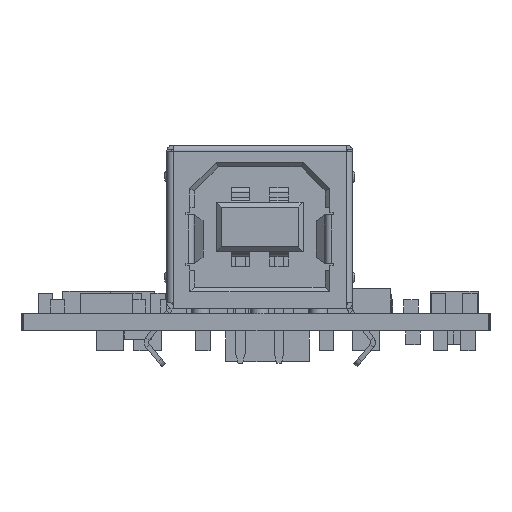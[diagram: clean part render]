
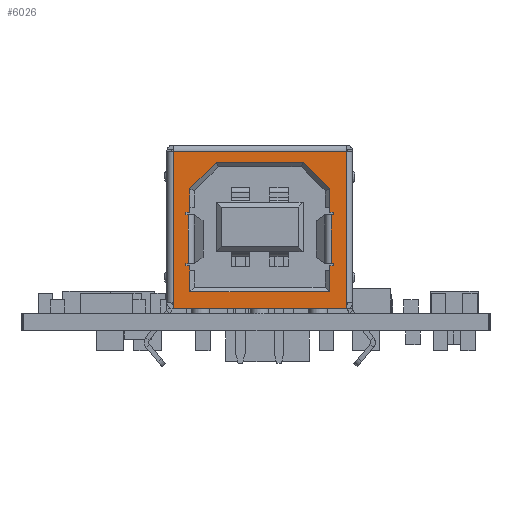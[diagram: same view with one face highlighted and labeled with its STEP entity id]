
A CAD part, front view. The second image highlights one B-rep face of the part: STEP entity #6026.
In plain terms, the highlighted planar face has unit normal (0, -1, 0).
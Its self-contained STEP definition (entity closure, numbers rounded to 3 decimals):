
#5691 = VERTEX_POINT('',#5692);
#5692 = CARTESIAN_POINT('',(4.617,-6.1,2.36));
#5699 = EDGE_CURVE('',#5691,#5700,#5702,.T.);
#5700 = VERTEX_POINT('',#5701);
#5701 = CARTESIAN_POINT('',(4.767,-6.1,2.36));
#5702 = LINE('',#5703,#5704);
#5703 = CARTESIAN_POINT('',(4.525,-6.1,2.36));
#5704 = VECTOR('',#5705,1.);
#5705 = DIRECTION('',(1.,0.,0.));
#5818 = VERTEX_POINT('',#5819);
#5819 = CARTESIAN_POINT('',(4.617,-6.1,-0.79));
#5826 = EDGE_CURVE('',#5691,#5818,#5827,.T.);
#5827 = LINE('',#5828,#5829);
#5828 = CARTESIAN_POINT('',(4.617,-6.1,2.36));
#5829 = VECTOR('',#5830,1.);
#5830 = DIRECTION('',(0.,0.,-1.));
#5859 = EDGE_CURVE('',#5818,#5860,#5862,.T.);
#5860 = VERTEX_POINT('',#5861);
#5861 = CARTESIAN_POINT('',(4.767,-6.1,-0.79));
#5862 = LINE('',#5863,#5864);
#5863 = CARTESIAN_POINT('',(4.525,-6.1,-0.79));
#5864 = VECTOR('',#5865,1.);
#5865 = DIRECTION('',(1.,0.,0.));
#6026 = ADVANCED_FACE('',(#6027,#6077),#6232,.T.);
#6027 = FACE_BOUND('',#6028,.T.);
#6028 = EDGE_LOOP('',(#6029,#6039,#6047,#6055,#6063,#6071));
#6029 = ORIENTED_EDGE('',*,*,#6030,.F.);
#6030 = EDGE_CURVE('',#6031,#6033,#6035,.T.);
#6031 = VERTEX_POINT('',#6032);
#6032 = CARTESIAN_POINT('',(5.6,-6.1,5.3));
#6033 = VERTEX_POINT('',#6034);
#6034 = CARTESIAN_POINT('',(5.6,-6.1,4.9));
#6035 = LINE('',#6036,#6037);
#6036 = CARTESIAN_POINT('',(5.6,-6.1,5.3));
#6037 = VECTOR('',#6038,1.);
#6038 = DIRECTION('',(0.,0.,-1.));
#6039 = ORIENTED_EDGE('',*,*,#6040,.F.);
#6040 = EDGE_CURVE('',#6041,#6031,#6043,.T.);
#6041 = VERTEX_POINT('',#6042);
#6042 = CARTESIAN_POINT('',(-5.6,-6.1,5.3));
#6043 = LINE('',#6044,#6045);
#6044 = CARTESIAN_POINT('',(-5.6,-6.1,5.3));
#6045 = VECTOR('',#6046,1.);
#6046 = DIRECTION('',(1.,0.,0.));
#6047 = ORIENTED_EDGE('',*,*,#6048,.T.);
#6048 = EDGE_CURVE('',#6041,#6049,#6051,.T.);
#6049 = VERTEX_POINT('',#6050);
#6050 = CARTESIAN_POINT('',(-5.6,-6.1,4.9));
#6051 = LINE('',#6052,#6053);
#6052 = CARTESIAN_POINT('',(-5.6,-6.1,5.3));
#6053 = VECTOR('',#6054,1.);
#6054 = DIRECTION('',(0.,0.,-1.));
#6055 = ORIENTED_EDGE('',*,*,#6056,.T.);
#6056 = EDGE_CURVE('',#6049,#6057,#6059,.T.);
#6057 = VERTEX_POINT('',#6058);
#6058 = CARTESIAN_POINT('',(-5.6,-6.1,-4.9));
#6059 = LINE('',#6060,#6061);
#6060 = CARTESIAN_POINT('',(-5.6,-6.1,4.9));
#6061 = VECTOR('',#6062,1.);
#6062 = DIRECTION('',(0.,0.,-1.));
#6063 = ORIENTED_EDGE('',*,*,#6064,.T.);
#6064 = EDGE_CURVE('',#6057,#6065,#6067,.T.);
#6065 = VERTEX_POINT('',#6066);
#6066 = CARTESIAN_POINT('',(5.6,-6.1,-4.9));
#6067 = LINE('',#6068,#6069);
#6068 = CARTESIAN_POINT('',(-5.6,-6.1,-4.9));
#6069 = VECTOR('',#6070,1.);
#6070 = DIRECTION('',(1.,0.,0.));
#6071 = ORIENTED_EDGE('',*,*,#6072,.T.);
#6072 = EDGE_CURVE('',#6065,#6033,#6073,.T.);
#6073 = LINE('',#6074,#6075);
#6074 = CARTESIAN_POINT('',(5.6,-6.1,-4.9));
#6075 = VECTOR('',#6076,1.);
#6076 = DIRECTION('',(0.,0.,1.));
#6077 = FACE_BOUND('',#6078,.T.);
#6078 = EDGE_LOOP('',(#6079,#6080,#6081,#6082,#6090,#6098,#6106,#6114,
    #6122,#6130,#6138,#6146,#6154,#6162,#6170,#6178,#6186,#6194,#6202,
    #6210,#6218,#6226));
#6079 = ORIENTED_EDGE('',*,*,#5699,.F.);
#6080 = ORIENTED_EDGE('',*,*,#5826,.T.);
#6081 = ORIENTED_EDGE('',*,*,#5859,.T.);
#6082 = ORIENTED_EDGE('',*,*,#6083,.T.);
#6083 = EDGE_CURVE('',#5860,#6084,#6086,.T.);
#6084 = VERTEX_POINT('',#6085);
#6085 = CARTESIAN_POINT('',(4.767,-6.1,-0.94));
#6086 = LINE('',#6087,#6088);
#6087 = CARTESIAN_POINT('',(4.767,-6.1,-0.94));
#6088 = VECTOR('',#6089,1.);
#6089 = DIRECTION('',(0.,0.,-1.));
#6090 = ORIENTED_EDGE('',*,*,#6091,.T.);
#6091 = EDGE_CURVE('',#6084,#6092,#6094,.T.);
#6092 = VERTEX_POINT('',#6093);
#6093 = CARTESIAN_POINT('',(4.525,-6.1,-0.94));
#6094 = LINE('',#6095,#6096);
#6095 = CARTESIAN_POINT('',(4.525,-6.1,-0.94));
#6096 = VECTOR('',#6097,1.);
#6097 = DIRECTION('',(-1.,0.,0.));
#6098 = ORIENTED_EDGE('',*,*,#6099,.F.);
#6099 = EDGE_CURVE('',#6100,#6092,#6102,.T.);
#6100 = VERTEX_POINT('',#6101);
#6101 = CARTESIAN_POINT('',(4.525,-6.1,-2.465));
#6102 = LINE('',#6103,#6104);
#6103 = CARTESIAN_POINT('',(4.525,-6.1,-4.19));
#6104 = VECTOR('',#6105,1.);
#6105 = DIRECTION('',(0.,0.,1.));
#6106 = ORIENTED_EDGE('',*,*,#6107,.F.);
#6107 = EDGE_CURVE('',#6108,#6100,#6110,.T.);
#6108 = VERTEX_POINT('',#6109);
#6109 = CARTESIAN_POINT('',(2.8,-6.1,-4.19));
#6110 = LINE('',#6111,#6112);
#6111 = CARTESIAN_POINT('',(4.525,-6.1,-2.465));
#6112 = VECTOR('',#6113,1.);
#6113 = DIRECTION('',(0.707,0.,0.707
    ));
#6114 = ORIENTED_EDGE('',*,*,#6115,.F.);
#6115 = EDGE_CURVE('',#6116,#6108,#6118,.T.);
#6116 = VERTEX_POINT('',#6117);
#6117 = CARTESIAN_POINT('',(-2.8,-6.1,-4.19));
#6118 = LINE('',#6119,#6120);
#6119 = CARTESIAN_POINT('',(-4.525,-6.1,-4.19));
#6120 = VECTOR('',#6121,1.);
#6121 = DIRECTION('',(1.,0.,0.));
#6122 = ORIENTED_EDGE('',*,*,#6123,.F.);
#6123 = EDGE_CURVE('',#6124,#6116,#6126,.T.);
#6124 = VERTEX_POINT('',#6125);
#6125 = CARTESIAN_POINT('',(-4.525,-6.1,-2.465));
#6126 = LINE('',#6127,#6128);
#6127 = CARTESIAN_POINT('',(-2.8,-6.1,-4.19));
#6128 = VECTOR('',#6129,1.);
#6129 = DIRECTION('',(0.707,0.,-0.707
    ));
#6130 = ORIENTED_EDGE('',*,*,#6131,.F.);
#6131 = EDGE_CURVE('',#6132,#6124,#6134,.T.);
#6132 = VERTEX_POINT('',#6133);
#6133 = CARTESIAN_POINT('',(-4.525,-6.1,-0.94));
#6134 = LINE('',#6135,#6136);
#6135 = CARTESIAN_POINT('',(-4.525,-6.1,4.19));
#6136 = VECTOR('',#6137,1.);
#6137 = DIRECTION('',(0.,0.,-1.));
#6138 = ORIENTED_EDGE('',*,*,#6139,.F.);
#6139 = EDGE_CURVE('',#6140,#6132,#6142,.T.);
#6140 = VERTEX_POINT('',#6141);
#6141 = CARTESIAN_POINT('',(-4.767,-6.1,-0.94));
#6142 = LINE('',#6143,#6144);
#6143 = CARTESIAN_POINT('',(-4.525,-6.1,-0.94));
#6144 = VECTOR('',#6145,1.);
#6145 = DIRECTION('',(1.,0.,0.));
#6146 = ORIENTED_EDGE('',*,*,#6147,.F.);
#6147 = EDGE_CURVE('',#6148,#6140,#6150,.T.);
#6148 = VERTEX_POINT('',#6149);
#6149 = CARTESIAN_POINT('',(-4.767,-6.1,-0.79));
#6150 = LINE('',#6151,#6152);
#6151 = CARTESIAN_POINT('',(-4.767,-6.1,-0.94));
#6152 = VECTOR('',#6153,1.);
#6153 = DIRECTION('',(0.,0.,-1.));
#6154 = ORIENTED_EDGE('',*,*,#6155,.F.);
#6155 = EDGE_CURVE('',#6156,#6148,#6158,.T.);
#6156 = VERTEX_POINT('',#6157);
#6157 = CARTESIAN_POINT('',(-4.617,-6.1,-0.79));
#6158 = LINE('',#6159,#6160);
#6159 = CARTESIAN_POINT('',(-4.525,-6.1,-0.79));
#6160 = VECTOR('',#6161,1.);
#6161 = DIRECTION('',(-1.,0.,0.));
#6162 = ORIENTED_EDGE('',*,*,#6163,.T.);
#6163 = EDGE_CURVE('',#6156,#6164,#6166,.T.);
#6164 = VERTEX_POINT('',#6165);
#6165 = CARTESIAN_POINT('',(-4.617,-6.1,2.36));
#6166 = LINE('',#6167,#6168);
#6167 = CARTESIAN_POINT('',(-4.617,-6.1,-0.79));
#6168 = VECTOR('',#6169,1.);
#6169 = DIRECTION('',(0.,0.,1.));
#6170 = ORIENTED_EDGE('',*,*,#6171,.T.);
#6171 = EDGE_CURVE('',#6164,#6172,#6174,.T.);
#6172 = VERTEX_POINT('',#6173);
#6173 = CARTESIAN_POINT('',(-4.767,-6.1,2.36));
#6174 = LINE('',#6175,#6176);
#6175 = CARTESIAN_POINT('',(-4.525,-6.1,2.36));
#6176 = VECTOR('',#6177,1.);
#6177 = DIRECTION('',(-1.,0.,0.));
#6178 = ORIENTED_EDGE('',*,*,#6179,.T.);
#6179 = EDGE_CURVE('',#6172,#6180,#6182,.T.);
#6180 = VERTEX_POINT('',#6181);
#6181 = CARTESIAN_POINT('',(-4.767,-6.1,2.51));
#6182 = LINE('',#6183,#6184);
#6183 = CARTESIAN_POINT('',(-4.767,-6.1,2.51));
#6184 = VECTOR('',#6185,1.);
#6185 = DIRECTION('',(0.,0.,1.));
#6186 = ORIENTED_EDGE('',*,*,#6187,.T.);
#6187 = EDGE_CURVE('',#6180,#6188,#6190,.T.);
#6188 = VERTEX_POINT('',#6189);
#6189 = CARTESIAN_POINT('',(-4.525,-6.1,2.51));
#6190 = LINE('',#6191,#6192);
#6191 = CARTESIAN_POINT('',(-4.525,-6.1,2.51));
#6192 = VECTOR('',#6193,1.);
#6193 = DIRECTION('',(1.,0.,0.));
#6194 = ORIENTED_EDGE('',*,*,#6195,.F.);
#6195 = EDGE_CURVE('',#6196,#6188,#6198,.T.);
#6196 = VERTEX_POINT('',#6197);
#6197 = CARTESIAN_POINT('',(-4.525,-6.1,4.19));
#6198 = LINE('',#6199,#6200);
#6199 = CARTESIAN_POINT('',(-4.525,-6.1,4.19));
#6200 = VECTOR('',#6201,1.);
#6201 = DIRECTION('',(0.,0.,-1.));
#6202 = ORIENTED_EDGE('',*,*,#6203,.F.);
#6203 = EDGE_CURVE('',#6204,#6196,#6206,.T.);
#6204 = VERTEX_POINT('',#6205);
#6205 = CARTESIAN_POINT('',(4.525,-6.1,4.19));
#6206 = LINE('',#6207,#6208);
#6207 = CARTESIAN_POINT('',(4.525,-6.1,4.19));
#6208 = VECTOR('',#6209,1.);
#6209 = DIRECTION('',(-1.,0.,0.));
#6210 = ORIENTED_EDGE('',*,*,#6211,.F.);
#6211 = EDGE_CURVE('',#6212,#6204,#6214,.T.);
#6212 = VERTEX_POINT('',#6213);
#6213 = CARTESIAN_POINT('',(4.525,-6.1,2.51));
#6214 = LINE('',#6215,#6216);
#6215 = CARTESIAN_POINT('',(4.525,-6.1,-4.19));
#6216 = VECTOR('',#6217,1.);
#6217 = DIRECTION('',(0.,0.,1.));
#6218 = ORIENTED_EDGE('',*,*,#6219,.F.);
#6219 = EDGE_CURVE('',#6220,#6212,#6222,.T.);
#6220 = VERTEX_POINT('',#6221);
#6221 = CARTESIAN_POINT('',(4.767,-6.1,2.51));
#6222 = LINE('',#6223,#6224);
#6223 = CARTESIAN_POINT('',(4.525,-6.1,2.51));
#6224 = VECTOR('',#6225,1.);
#6225 = DIRECTION('',(-1.,0.,0.));
#6226 = ORIENTED_EDGE('',*,*,#6227,.F.);
#6227 = EDGE_CURVE('',#5700,#6220,#6228,.T.);
#6228 = LINE('',#6229,#6230);
#6229 = CARTESIAN_POINT('',(4.767,-6.1,2.51));
#6230 = VECTOR('',#6231,1.);
#6231 = DIRECTION('',(0.,0.,1.));
#6232 = PLANE('',#6233);
#6233 = AXIS2_PLACEMENT_3D('',#6234,#6235,#6236);
#6234 = CARTESIAN_POINT('',(-5.6,-6.1,5.3));
#6235 = DIRECTION('',(0.,-1.,0.));
#6236 = DIRECTION('',(0.,0.,-1.));
